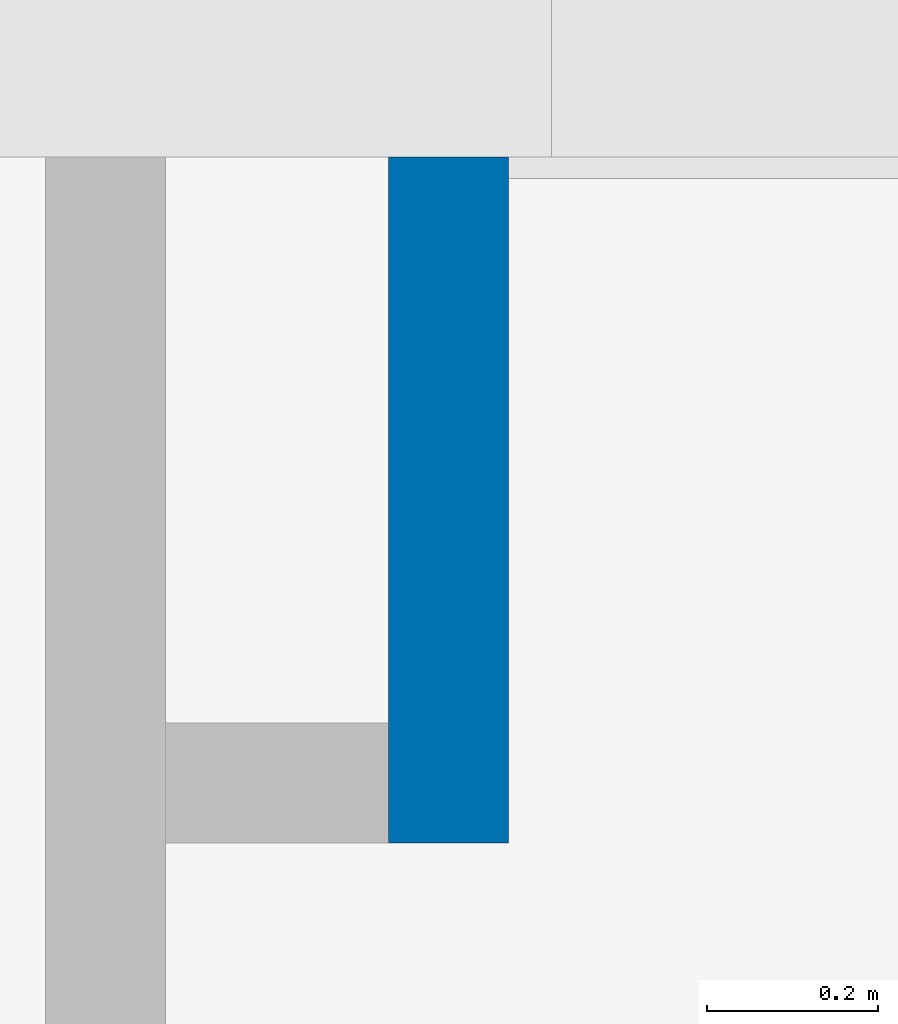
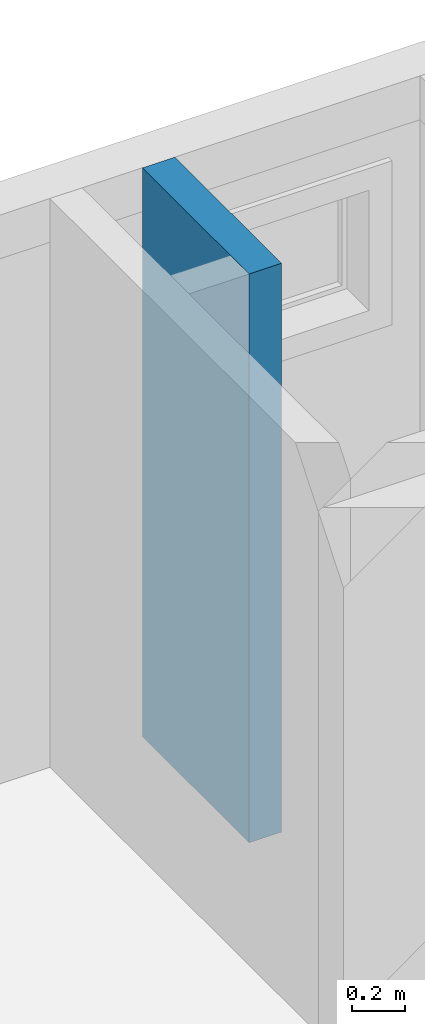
# One storey, part 23 of 47: 1 wall.
"""IFC2X3 building model written with IfcOpenShell, lengths in millimetres."""

import ifcopenshell
import ifcopenshell.guid

model = None  # the IFC model being written
_history = None  # IfcOwnerHistory: only IFC2X3 demands one
_inside = {}  # id of a spatial element -> (the spatial element, [elements in it])
_under = {}  # id of a project, library or spatial element -> (it, [spatial elements below it])
_declared = {}  # id of a project -> (the project, [libraries it declares])
_typed = {}  # id of a type object -> (the type object, [elements of that type])
_made_of = {}  # id of a material, layer set ... -> (it, [elements and type objects made of it])


def new_model(schema):
    """Start an empty IFC model of exactly this schema.

    Asked for "IFC4X3", IfcOpenShell would pick the latest addendum, in which some entities
    have other attributes; the version numbers below select the first issue.
    IFC2X3 requires an IfcOwnerHistory on every rooted entity: one is made here for all.
    """
    global model, _history
    if schema == "IFC4X3":
        model = ifcopenshell.file(schema_version=(4, 3, 0, 0))
    else:
        model = ifcopenshell.file(schema=schema)
    _inside.clear()
    _under.clear()
    _declared.clear()
    _typed.clear()
    _made_of.clear()
    _history = None
    if model.schema == "IFC2X3":
        org = make("IfcOrganization", Name="unknown")
        user = make(
            "IfcPersonAndOrganization",
            ThePerson=make("IfcPerson", FamilyName="unknown"),
            TheOrganization=org,
        )
        app = make(
            "IfcApplication",
            ApplicationDeveloper=org,
            Version="unknown",
            ApplicationFullName="unknown",
            ApplicationIdentifier="unknown",
        )
        _history = make(
            "IfcOwnerHistory",
            OwningUser=user,
            OwningApplication=app,
            ChangeAction="ADDED",
            CreationDate=0,
        )
    return model


def make(cls, **values):
    """One entity of the class cls with the attributes given. An attribute that is None is left unset."""
    return model.create_entity(
        cls, **{name: value for name, value in values.items() if value is not None}
    )


def entity(cls, *values):
    """Any entity or typed value of the class cls, its attributes in the order of the schema. None: left unset."""
    e = model.create_entity(cls)
    for i, value in enumerate(values):
        if value is not None:
            e[i] = value
    return e


def rooted(cls, **values):
    """An entity with a GlobalId (a new one), such as an element, a storey or a relation."""
    return make(cls, GlobalId=ifcopenshell.guid.new(), OwnerHistory=_history, **values)


def si_unit(unit_type, name, prefix=None):
    """IfcSIUnit, for example si_unit("LENGTHUNIT", "METRE", prefix="MILLI")."""
    return make("IfcSIUnit", UnitType=unit_type, Prefix=prefix, Name=name)


def converted_unit(unit_type, name, factor, base, dimensions=None, offset=None):
    """IfcConversionBasedUnit, such as the inch: factor (a typed value) times the base unit."""
    return make(
        "IfcConversionBasedUnit"
        if offset is None
        else "IfcConversionBasedUnitWithOffset",
        ConversionOffset=offset,
        Dimensions=None
        if dimensions is None
        else entity("IfcDimensionalExponents", *dimensions),
        UnitType=unit_type,
        Name=name,
        ConversionFactor=make(
            "IfcMeasureWithUnit", ValueComponent=factor, UnitComponent=base
        ),
    )


def derived_unit(unit_type, elements):
    """IfcDerivedUnit: a product of units, each with its exponent."""
    return make(
        "IfcDerivedUnit",
        Elements=[
            make("IfcDerivedUnitElement", Unit=unit, Exponent=power)
            for unit, power in elements
        ],
        UnitType=unit_type,
    )


def money_unit(currency):
    """IfcMonetaryUnit."""
    return make("IfcMonetaryUnit", Currency=currency)


def assignment(units):
    """IfcUnitAssignment: the units of a project."""
    return None if units is None else make("IfcUnitAssignment", Units=units)


def point(xyz):
    """IfcCartesianPoint."""
    return None if xyz is None else make("IfcCartesianPoint", Coordinates=xyz)


def direction(xyz):
    """IfcDirection."""
    return None if xyz is None else make("IfcDirection", DirectionRatios=xyz)


def frame(location, z_axis=None, x_axis=None):
    """IfcAxis2Placement3D, a coordinate frame: its origin and axes. An axis left out is left unset."""
    return make(
        "IfcAxis2Placement3D",
        Location=point(location),
        Axis=direction(z_axis),
        RefDirection=direction(x_axis),
    )


def origin_with_axes():
    """The frame at (0, 0, 0) with the z axis (0, 0, 1) and the x axis (1, 0, 0) written out."""
    return frame((0.0, 0.0, 0.0), z_axis=(0.0, 0.0, 1.0), x_axis=(1.0, 0.0, 0.0))


def place(relative_to, where):
    """IfcLocalPlacement: puts the frame where relative to a parent placement (None: the world)."""
    return make(
        "IfcLocalPlacement", PlacementRelTo=relative_to, RelativePlacement=where
    )


def context(
    kind, dimensions, precision=None, world=None, true_north=None, identifier=None
):
    """IfcGeometricRepresentationContext, for example the 3D "Model" context."""
    return make(
        "IfcGeometricRepresentationContext",
        ContextIdentifier=identifier,
        ContextType=kind,
        CoordinateSpaceDimension=dimensions,
        Precision=precision,
        WorldCoordinateSystem=world,
        TrueNorth=true_north,
    )


def subcontext(parent, identifier, kind, view, scale=None):
    """IfcGeometricRepresentationSubContext, for example "Body" below "Model"."""
    return make(
        "IfcGeometricRepresentationSubContext",
        ContextIdentifier=identifier,
        ContextType=kind,
        ParentContext=parent,
        TargetScale=scale,
        TargetView=view,
    )


def project(units=None, contexts=None):
    """IfcProject with its units and contexts."""
    return rooted(
        "IfcProject",
        Name="project",
        RepresentationContexts=contexts,
        UnitsInContext=assignment(units),
    )


def spatial(cls, under=None, at=None, **own):
    """A site, building, storey or space (cls), placed at a placement, below another one or the project."""
    s = rooted(cls, ObjectPlacement=at, **own)
    if under is not None:
        _under.setdefault(under.id(), (under, []))[1].append(s)
    return s


def polyline(points):
    """IfcPolyline through the points."""
    return make("IfcPolyline", Points=[point(p) for p in points])


def outline(outer, holes=None, kind="AREA"):
    """IfcArbitraryClosedProfileDef: a profile drawn as a closed curve; with holes, ...WithVoids."""
    if holes is None:
        return make("IfcArbitraryClosedProfileDef", ProfileType=kind, OuterCurve=outer)
    return make(
        "IfcArbitraryProfileDefWithVoids",
        ProfileType=kind,
        OuterCurve=outer,
        InnerCurves=holes,
    )


def extrude(swept, where, along, depth):
    """IfcExtrudedAreaSolid: the profile swept, set in the frame where, extruded along a direction by depth."""
    return make(
        "IfcExtrudedAreaSolid",
        SweptArea=swept,
        Position=where,
        ExtrudedDirection=direction(along),
        Depth=depth,
    )


def shape(context_of_items, identifier, shape_type, items):
    """IfcShapeRepresentation: the items that make up one representation, for example the "Body"."""
    return make(
        "IfcShapeRepresentation",
        ContextOfItems=context_of_items,
        RepresentationIdentifier=identifier,
        RepresentationType=shape_type,
        Items=items,
    )


def material(Name=None, Category=None):
    """IfcMaterial."""
    return make("IfcMaterial", Name=Name, Category=Category)


def layer(
    of_material, thickness, ventilated=None, Name=None, Category=None, Priority=None
):
    """IfcMaterialLayer: one layer of a wall or slab, of a material (None: an air gap)."""
    return make(
        "IfcMaterialLayer",
        Material=of_material,
        LayerThickness=thickness,
        IsVentilated=ventilated,
        Name=Name,
        Category=Category,
        Priority=Priority,
    )


def layer_set(layers, Name=None):
    """IfcMaterialLayerSet."""
    return make("IfcMaterialLayerSet", MaterialLayers=layers, LayerSetName=Name)


def layer_usage(for_layer_set, set_direction, sense, offset, extent=None):
    """IfcMaterialLayerSetUsage: how a layer set lies in its element."""
    return make(
        "IfcMaterialLayerSetUsage",
        ForLayerSet=for_layer_set,
        LayerSetDirection=set_direction,
        DirectionSense=sense,
        OffsetFromReferenceLine=offset,
        ReferenceExtent=extent,
    )


def made_of(thing, what):
    """Note that an element or type object is made of a material, layer set ...; save() writes the relation."""
    if what is not None:
        _made_of.setdefault(what.id(), (what, []))[1].append(thing)
    return thing


def type_object(cls, material=None, **own):
    """A type object (cls), such as IfcWallType, which elements share."""
    return made_of(rooted(cls, **own), material)


def element(
    cls,
    number,
    at=None,
    inside=None,
    cuts=None,
    type_object=None,
    material=None,
    context=None,
    identifier="Body",
    shape_type=None,
    held_by="IfcProductDefinitionShape",
    body=None,
    shapes=None,
    **own,
):
    """One element of the class cls, such as IfcWall. Its Tag is "e" and its number.

    at: its placement. inside: the storey or other place that contains it. cuts: it is an
    opening in that element (IfcRelVoidsElement). A single representation is given by context,
    identifier, shape_type and body (its items); several are given by shapes. held_by: the class
    of the entity that holds the representations. save() writes the other relations.
    """
    e = rooted(cls, Tag="e%d" % number, ObjectPlacement=at, **own)
    if body is not None:
        shapes = [shape(context, identifier, shape_type, body)]
    if shapes is not None:
        e.Representation = make(held_by, Representations=shapes)
    if inside is not None:
        _inside.setdefault(inside.id(), (inside, []))[1].append(e)
    if cuts is not None:
        rooted(
            "IfcRelVoidsElement", RelatingBuildingElement=cuts, RelatedOpeningElement=e
        )
    if type_object is not None:
        _typed.setdefault(type_object.id(), (type_object, []))[1].append(e)
    return made_of(e, material)


def aggregate(whole, parts):
    """IfcRelAggregates: a whole, such as a stair, and the parts it consists of."""
    return rooted("IfcRelAggregates", RelatingObject=whole, RelatedObjects=parts)


def save(model, path):
    """Write the relations noted so far, then the file.

    IfcRelAggregates (storeys below a building ...), IfcRelContainedInSpatialStructure (elements
    in a storey), IfcRelDefinesByType, IfcRelAssociatesMaterial and IfcRelDeclares: one each for
    every whole, place, type object, material and project.
    """
    for whole, parts in _under.values():
        aggregate(whole, parts)
    for where, things in _inside.values():
        rooted(
            "IfcRelContainedInSpatialStructure",
            RelatedElements=things,
            RelatingStructure=where,
        )
    for kind, things in _typed.values():
        rooted("IfcRelDefinesByType", RelatedObjects=things, RelatingType=kind)
    for what, things in _made_of.values():
        rooted("IfcRelAssociatesMaterial", RelatedObjects=things, RelatingMaterial=what)
    for by, libraries in _declared.values():
        rooted("IfcRelDeclares", RelatingContext=by, RelatedDefinitions=libraries)
    model.write(path)


model = new_model("IFC2X3")

# Units and contexts
model_context = context("Model", 3, precision=0.01, world=origin_with_axes(), true_north=direction((0.0, 1.0)))
body_context = subcontext(model_context, "Body", "Model", "MODEL_VIEW")
ifc_project = project(units=[si_unit("LENGTHUNIT", "METRE", prefix="MILLI"), si_unit("AREAUNIT", "SQUARE_METRE"), si_unit("VOLUMEUNIT", "CUBIC_METRE"), converted_unit("PLANEANGLEUNIT", "DEGREE", entity("IfcPlaneAngleMeasure", 0.0174532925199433), si_unit("PLANEANGLEUNIT", "RADIAN"), dimensions=[0, 0, 0, 0, 0, 0, 0]), money_unit("USD"), converted_unit("TIMEUNIT", "Year", entity("IfcTimeMeasure", 31557600.0), si_unit("TIMEUNIT", "SECOND"), dimensions=[0, 0, 1, 0, 0, 0, 0]), si_unit("MASSUNIT", "GRAM", prefix="KILO"), si_unit("THERMODYNAMICTEMPERATUREUNIT", "DEGREE_CELSIUS"), si_unit("LUMINOUSINTENSITYUNIT", "LUMEN"), si_unit("ENERGYUNIT", "JOULE", prefix="MEGA"), derived_unit("THERMALCONDUCTANCEUNIT", [(si_unit("POWERUNIT", "WATT"), 1), (si_unit("LENGTHUNIT", "METRE"), -1), (si_unit("THERMODYNAMICTEMPERATUREUNIT", "KELVIN"), -1)]), derived_unit("SPECIFICHEATCAPACITYUNIT", [(si_unit("ENERGYUNIT", "JOULE"), 1), (si_unit("MASSUNIT", "GRAM", prefix="KILO"), -1), (si_unit("THERMODYNAMICTEMPERATUREUNIT", "KELVIN"), -1)]), derived_unit("MASSDENSITYUNIT", [(si_unit("MASSUNIT", "GRAM", prefix="KILO"), 1), (si_unit("VOLUMEUNIT", "CUBIC_METRE"), -1)])], contexts=[model_context])

# Site, building, storey
site_placement = place(None, origin_with_axes())
site = spatial("IfcSite", under=ifc_project, at=site_placement, Name="Local", CompositionType="ELEMENT")
building_placement = place(site_placement, origin_with_axes())
building = spatial("IfcBuilding", under=site, at=building_placement, Name="Construção", CompositionType="ELEMENT")
storey_placement = place(building_placement, origin_with_axes())
storey = spatial("IfcBuildingStorey", under=building, at=storey_placement, Name="Pavimento Tipo", CompositionType="ELEMENT", Elevation=0.0)

# Wall
ifc_material = material(Name="Concreto")
ifc_layer = layer(ifc_material, 140.0, ventilated="UNKNOWN")
ifc_layer_set = layer_set([ifc_layer], Name="Concreto 140")
ifc_layer_usage = layer_usage(ifc_layer_set, "AXIS2", "POSITIVE", -140.0)
wall_type = type_object("IfcWallType", Name="Concreto 140", PredefinedType="NOTDEFINED")
wall_placement = place(storey_placement, frame((5192.566997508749, 4996.981417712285, 0.0), z_axis=(0.0, 0.0, 1.0), x_axis=(0.0, -1.0, 0.0)))
element("IfcWallStandardCase", 1, at=wall_placement, inside=storey, type_object=wall_type, material=ifc_layer_usage, Name="Apartamento 4 - Parede-096", context=body_context, shape_type="SweptSolid", body=[
    extrude(outline(polyline([(0.0, -139.9999999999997), (800.0000000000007, -139.9999999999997), (800.0000000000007, 0.0), (0.0, 0.0), (0.0, -139.9999999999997)])), origin_with_axes(), (0.0, 0.0, 1.0), 2600.0),
])

save(model, "model.ifc")
